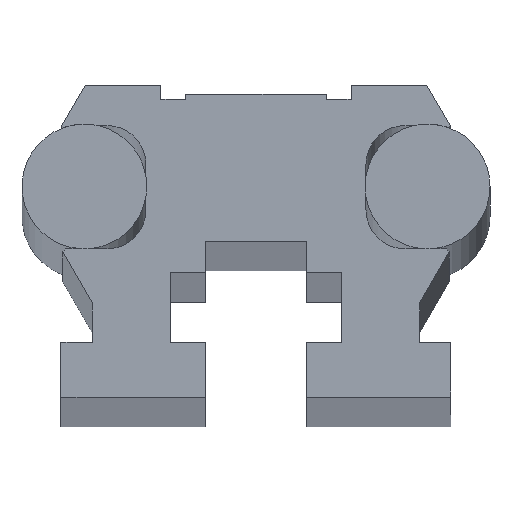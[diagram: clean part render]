
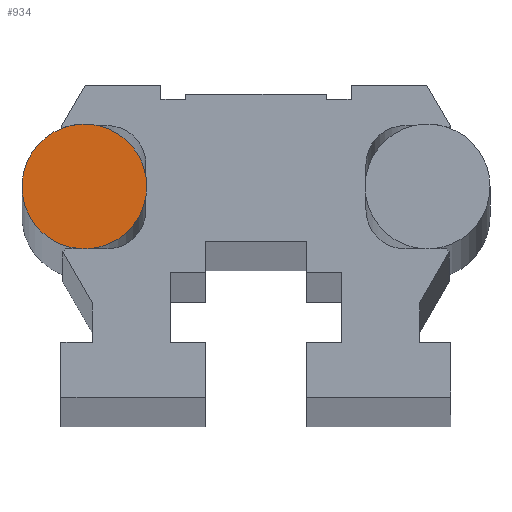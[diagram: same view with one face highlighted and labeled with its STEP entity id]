
A CAD part, top view. The second image highlights one B-rep face of the part: STEP entity #934.
In plain terms, the highlighted planar face has unit normal (0, 0, 1).
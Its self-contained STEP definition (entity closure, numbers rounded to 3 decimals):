
#19 = VERTEX_POINT ( 'NONE', #1029 ) ;
#21 = EDGE_CURVE ( 'NONE', #22, #19, #1028, .T. ) ;
#22 = VERTEX_POINT ( 'NONE', #1023 ) ;
#35 = VERTEX_POINT ( 'NONE', #885 ) ;
#37 = EDGE_CURVE ( 'NONE', #35, #38, #884, .T. ) ;
#38 = VERTEX_POINT ( 'NONE', #879 ) ;
#86 = VERTEX_POINT ( 'NONE', #980 ) ;
#88 = EDGE_CURVE ( 'NONE', #159, #86, #979, .T. ) ;
#157 = EDGE_CURVE ( 'NONE', #158, #159, #1389, .T. ) ;
#158 = VERTEX_POINT ( 'NONE', #1380 ) ;
#159 = VERTEX_POINT ( 'NONE', #1379 ) ;
#879 = CARTESIAN_POINT ( 'NONE',  ( -12.324, 17.275, -1.5 ) ) ;
#880 = DIRECTION ( 'NONE',  ( 1., 0., 0. ) ) ;
#881 = DIRECTION ( 'NONE',  ( 0., 0., -1. ) ) ;
#882 = CARTESIAN_POINT ( 'NONE',  ( -11., 13.5, -1.5 ) ) ;
#883 = AXIS2_PLACEMENT_3D ( 'NONE', #882, #881, #880 ) ;
#884 = CIRCLE ( 'NONE', #883, 4. ) ;
#885 = CARTESIAN_POINT ( 'NONE',  ( -11.25, 9.508, -1.5 ) ) ;
#933 = EDGE_CURVE ( 'NONE', #35, #22, #2185, .T. ) ;
#934 = ADVANCED_FACE ( 'NONE', ( #2180 ), #2179, .T. ) ;
#935 = EDGE_LOOP ( 'NONE', ( #936, #937, #938, #939, #997, #998, #999 ) ) ;
#936 = ORIENTED_EDGE ( 'NONE', *, *, #88, .T. ) ;
#937 = ORIENTED_EDGE ( 'NONE', *, *, #1095, .T. ) ;
#938 = ORIENTED_EDGE ( 'NONE', *, *, #37, .F. ) ;
#939 = ORIENTED_EDGE ( 'NONE', *, *, #933, .T. ) ;
#975 = DIRECTION ( 'NONE',  ( 1., 0., 0. ) ) ;
#976 = DIRECTION ( 'NONE',  ( 0., 0., 1. ) ) ;
#977 = CARTESIAN_POINT ( 'NONE',  ( -11., 13.5, -1.5 ) ) ;
#978 = AXIS2_PLACEMENT_3D ( 'NONE', #977, #976, #975 ) ;
#979 = CIRCLE ( 'NONE', #978, 4. ) ;
#980 = CARTESIAN_POINT ( 'NONE',  ( -10.111, 17.4, -1.5 ) ) ;
#997 = ORIENTED_EDGE ( 'NONE', *, *, #21, .T. ) ;
#998 = ORIENTED_EDGE ( 'NONE', *, *, #1086, .T. ) ;
#999 = ORIENTED_EDGE ( 'NONE', *, *, #157, .T. ) ;
#1023 = CARTESIAN_POINT ( 'NONE',  ( -10.75, 9.508, -1.5 ) ) ;
#1024 = DIRECTION ( 'NONE',  ( 1., 0., 0. ) ) ;
#1025 = DIRECTION ( 'NONE',  ( 0., 0., 1. ) ) ;
#1026 = CARTESIAN_POINT ( 'NONE',  ( -11., 13.5, -1.5 ) ) ;
#1027 = AXIS2_PLACEMENT_3D ( 'NONE', #1026, #1025, #1024 ) ;
#1028 = CIRCLE ( 'NONE', #1027, 4. ) ;
#1029 = CARTESIAN_POINT ( 'NONE',  ( -7.05, 12.87, -1.5 ) ) ;
#1086 = EDGE_CURVE ( 'NONE', #19, #158, #2525, .T. ) ;
#1095 = EDGE_CURVE ( 'NONE', #86, #38, #2482, .T. ) ;
#1379 = CARTESIAN_POINT ( 'NONE',  ( -7.05, 14.13, -1.5 ) ) ;
#1380 = CARTESIAN_POINT ( 'NONE',  ( -7., 13.5, -1.5 ) ) ;
#1381 = DIRECTION ( 'NONE',  ( 1., 0., 0. ) ) ;
#1382 = DIRECTION ( 'NONE',  ( 0., 0., 1. ) ) ;
#1383 = CARTESIAN_POINT ( 'NONE',  ( -11., 13.5, -1.5 ) ) ;
#1384 = AXIS2_PLACEMENT_3D ( 'NONE', #1383, #1382, #1381 ) ;
#1389 = CIRCLE ( 'NONE', #1384, 4. ) ;
#2175 = DIRECTION ( 'NONE',  ( 1., 0., 0. ) ) ;
#2176 = DIRECTION ( 'NONE',  ( 0., 0., 1. ) ) ;
#2177 = CARTESIAN_POINT ( 'NONE',  ( -11., 13.5, -1.5 ) ) ;
#2178 = AXIS2_PLACEMENT_3D ( 'NONE', #2177, #2176, #2175 ) ;
#2179 = PLANE ( 'NONE',  #2178 ) ;
#2180 = FACE_OUTER_BOUND ( 'NONE', #935, .T. ) ;
#2181 = DIRECTION ( 'NONE',  ( 1., 0., 0. ) ) ;
#2182 = DIRECTION ( 'NONE',  ( 0., 0., 1. ) ) ;
#2183 = CARTESIAN_POINT ( 'NONE',  ( -11., 13.5, -1.5 ) ) ;
#2184 = AXIS2_PLACEMENT_3D ( 'NONE', #2183, #2182, #2181 ) ;
#2185 = CIRCLE ( 'NONE', #2184, 4. ) ;
#2479 = DIRECTION ( 'NONE',  ( 1., 0., 0. ) ) ;
#2480 = DIRECTION ( 'NONE',  ( 0., 0., 1. ) ) ;
#2481 = AXIS2_PLACEMENT_3D ( 'NONE', #2488, #2480, #2479 ) ;
#2482 = CIRCLE ( 'NONE', #2481, 4. ) ;
#2488 = CARTESIAN_POINT ( 'NONE',  ( -11., 13.5, -1.5 ) ) ;
#2521 = DIRECTION ( 'NONE',  ( 1., 0., 0. ) ) ;
#2522 = DIRECTION ( 'NONE',  ( 0., 0., 1. ) ) ;
#2523 = CARTESIAN_POINT ( 'NONE',  ( -11., 13.5, -1.5 ) ) ;
#2524 = AXIS2_PLACEMENT_3D ( 'NONE', #2523, #2522, #2521 ) ;
#2525 = CIRCLE ( 'NONE', #2524, 4. ) ;
